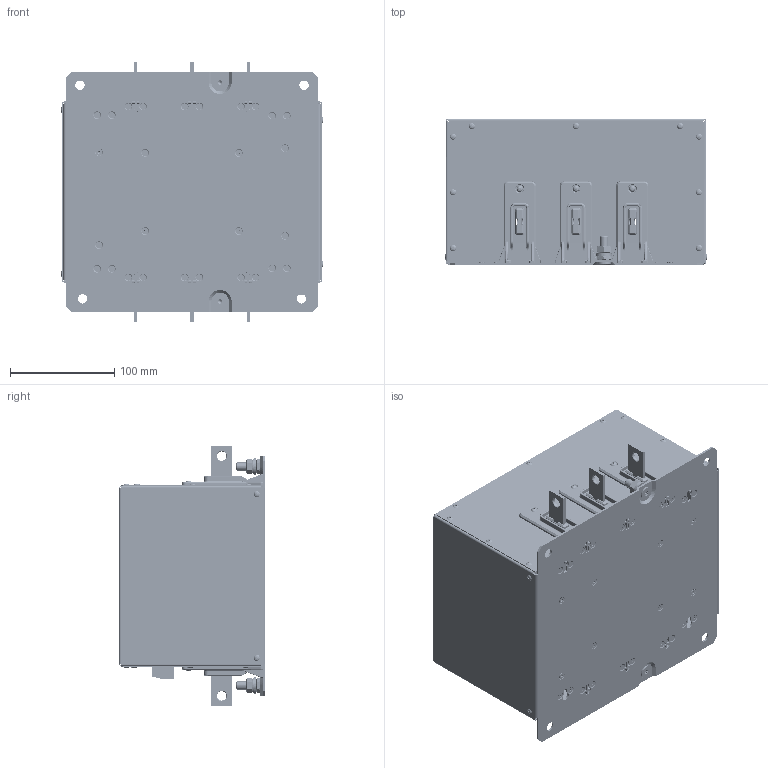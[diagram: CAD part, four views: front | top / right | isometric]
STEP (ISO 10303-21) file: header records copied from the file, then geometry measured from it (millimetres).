
FILE_DESCRIPTION(/* description */ ('raw material description'),/* implementation_level */ '2;1');
FILE_NAME(/* name */ 'C:\Users\Orhan.Eker\Desktop\FN3840-250-99.stp',/* time_stamp */ '2020-02-24T16:41:16+01:00',/* author */ ('orhan.eker'),/* organization */ ('Schaffner EMV AG'),/* preprocessor_version */ 'ST-DEVELOPER v16.5',/* originating_system */ 'Autodesk Inventor 2017',/* authorisation */ '');
FILE_SCHEMA (('AUTOMOTIVE_DESIGN { 1 0 10303 214 3 1 1 }'));
Products named in the file (1): Part1
Bounding box: 252.2 x 140.14 x 250 mm (x, y, z)
Volume: 412965.2 mm3; surface area: 540368 mm2
Topology: 36 solids, 80 shells, 6367 faces, 15811 edges, 9977 vertices
Faces by surface type: plane 3225, cylinder 1650, bspline 1078, cone 282, sphere 84, torus 48
Full cylindrical faces by diameter (mm): 1.63 x26, 1.78 x26, 1.93 x4, 2.4 x32, 2.8 x20, 3.2 x112, 3.3 x46, 3.33 x4, 3.5 x28, 4 x2, 4.7 x6, 4.82 x4, 5 x4, 5.5 x52, 6.4 x4, 7 x4, 7.3 x2, 8 x8, 8.4 x4, 9 x12, 9.9 x2, 13 x2, 16 x2
Entity records: 207324 total; most frequent: CARTESIAN_POINT 54886, ORIENTED_EDGE 30114, DIRECTION 28917, EDGE_CURVE 15057, VERTEX_POINT 9901, AXIS2_PLACEMENT_3D 9818, LINE 9281, VECTOR 9281
